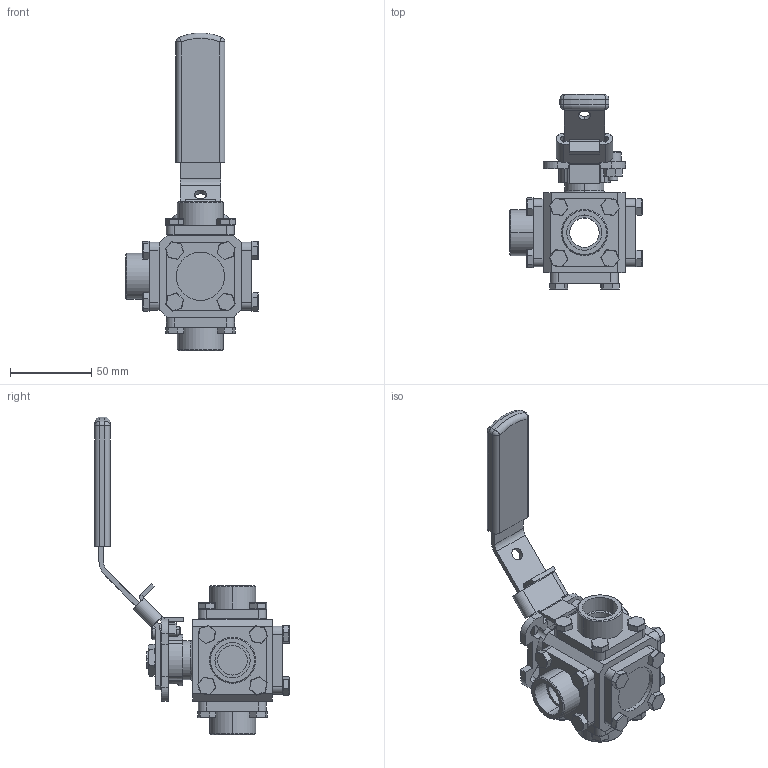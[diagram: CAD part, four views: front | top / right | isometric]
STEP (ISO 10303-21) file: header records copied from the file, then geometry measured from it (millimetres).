
FILE_DESCRIPTION (( 'STEP AP214' ), '1' );
FILE_NAME ('33-SW-0050-XXX.step', '2019-09-30T20:17:43', ( '' ), ( '' ), 'SwSTEP 2.0', 'SolidWorks 2019', '' );
FILE_SCHEMA (( 'AUTOMOTIVE_DESIGN' ));
Length unit declared in the file: inch
Products named in the file (2): 33-SW-0050-XXX
Bounding box: 81.64 x 120.12 x 195.97 mm (x, y, z)
Surface area: 61265.6 mm2 (no closed solid volume)
Topology: 0 solids, 37 shells, 625 faces, 1731 edges, 1141 vertices
Faces by surface type: plane 490, cylinder 104, cone 23, torus 4, sphere 4
Entity records: 27975 total; most frequent: CARTESIAN_POINT 3851, DIRECTION 3347, ORIENTED_EDGE 2991, EDGE_CURVE 1725, LINE 1265, VECTOR 1265, VERTEX_POINT 1141, AXIS2_PLACEMENT_3D 1041
